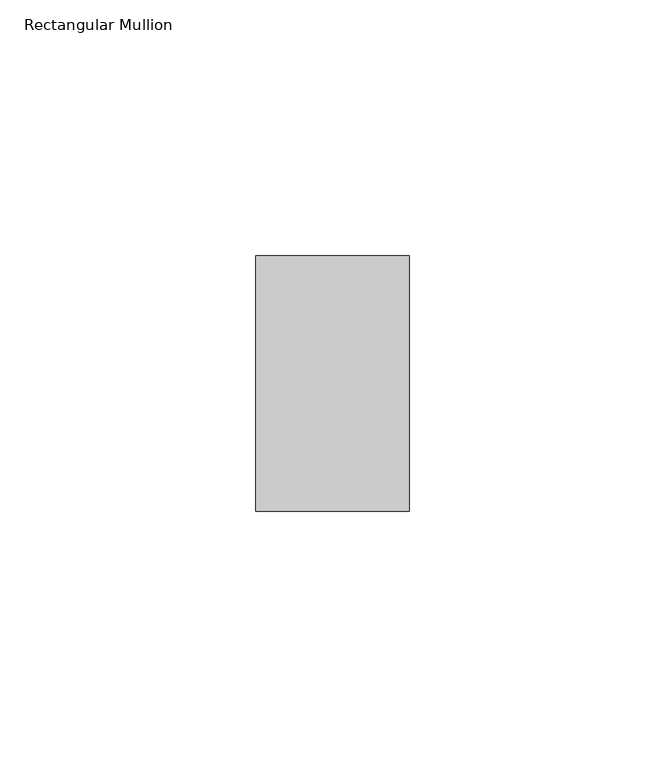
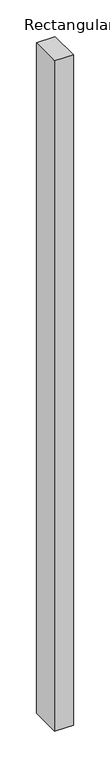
"""IFC4 building model written with IfcOpenShell, lengths in millimetres: member geometry, Rectangular Mullion : ARQ_TV_MULL_50x30mm."""

from ifc_helpers import new_model, si_unit, frame, origin, place, context, project, spatial, polyline, outline, extrude, source, transform, mapped, element, save


def rectangular_mullion_e6a18c8c(model_context):
    return source(origin(), model_context, "Body", "SweptSolid", [
        extrude(outline(polyline([(0.0, 25.0), (0.0, -25.0), (-30.0, -25.0), (-30.0, 25.0), (0.0, 25.0)])), frame((0.0, 0.0, -1121.2405904), z_axis=(0.0, 0.0, 1.0), x_axis=(1.0, 0.0, 0.0)), (0.0, 0.0, 1.0), 1121.2405904),
    ])


if __name__ == "__main__":
    model = new_model("IFC4")
    model_context = context("Model", 3, world=origin())
    ifc_project = project(units=[si_unit("LENGTHUNIT", "METRE", prefix="MILLI")], contexts=[model_context])
    site = spatial("IfcSite", under=ifc_project)
    building = spatial("IfcBuilding", under=site)
    placement = place(None, origin())
    rectangular_mullion_shape = rectangular_mullion_e6a18c8c(model_context)
    element("IfcMember", 1, ObjectType="Rectangular Mullion : ARQ_TV_MULL_50x30mm", at=placement, inside=building, context=model_context, shape_type="MappedRepresentation", body=[
        mapped(rectangular_mullion_shape, transform((0.0, 0.0, 0.0), x_axis=(1.0, 0.0, 0.0), y_axis=(0.0, 1.0, 0.0), z_axis=(0.0, 0.0, 1.0))),
    ])
    save(model, "model.ifc")
